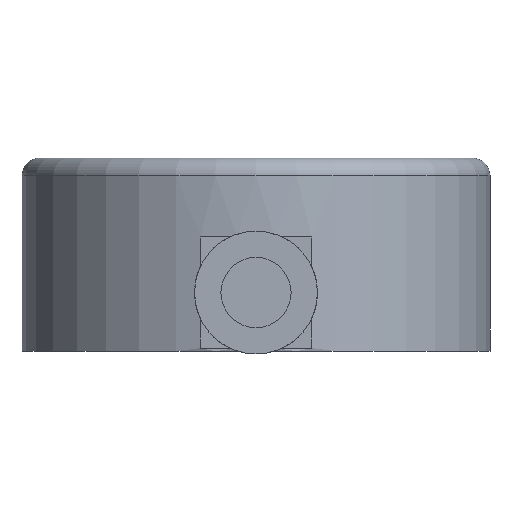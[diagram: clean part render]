
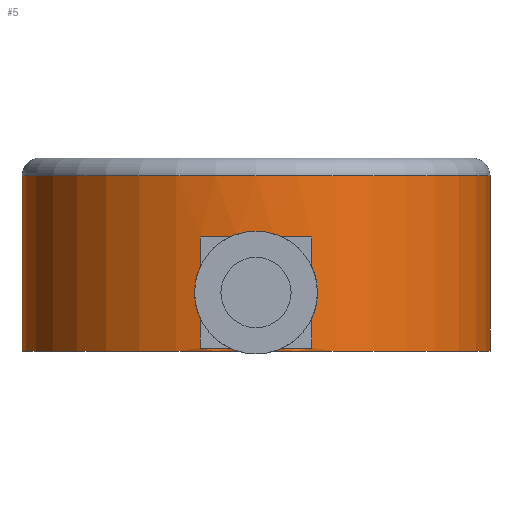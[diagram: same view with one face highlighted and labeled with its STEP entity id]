
A CAD part, front view. The second image highlights one B-rep face of the part: STEP entity #5.
In plain terms, the highlighted cylindrical face has radius 40 mm (diameter 80 mm), a partial arc.
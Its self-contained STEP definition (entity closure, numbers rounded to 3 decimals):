
#5 = ADVANCED_FACE ( 'NONE', ( #281, #491 ), #403, .T. ) ;
#13 = EDGE_CURVE ( 'NONE', #311, #256, #126, .T. ) ;
#30 = DIRECTION ( 'NONE',  ( 0., 0., 1. ) ) ;
#42 = EDGE_CURVE ( 'NONE', #636, #301, #223, .T. ) ;
#68 = EDGE_CURVE ( 'NONE', #256, #410, #162, .T. ) ;
#74 = CARTESIAN_POINT ( 'NONE',  ( -9.5, -38.856, 33. ) ) ;
#80 = DIRECTION ( 'NONE',  ( 0., 0., -1. ) ) ;
#97 = EDGE_CURVE ( 'NONE', #301, #100, #433, .T. ) ;
#100 = VERTEX_POINT ( 'NONE', #565 ) ;
#115 = CARTESIAN_POINT ( 'NONE',  ( 0., 0., 33. ) ) ;
#116 = EDGE_CURVE ( 'NONE', #429, #636, #334, .T. ) ;
#126 = LINE ( 'NONE', #74, #163 ) ;
#129 = CARTESIAN_POINT ( 'NONE',  ( 40., 0., 30. ) ) ;
#160 = ORIENTED_EDGE ( 'NONE', *, *, #42, .T. ) ;
#161 = VECTOR ( 'NONE', #243, 1000. ) ;
#162 = CIRCLE ( 'NONE', #528, 40. ) ;
#163 = VECTOR ( 'NONE', #455, 1000. ) ;
#166 = ORIENTED_EDGE ( 'NONE', *, *, #97, .T. ) ;
#185 = CARTESIAN_POINT ( 'NONE',  ( 0., 0., 19.5 ) ) ;
#186 = CARTESIAN_POINT ( 'NONE',  ( 0., 0., 0.5 ) ) ;
#188 = AXIS2_PLACEMENT_3D ( 'NONE', #510, #30, #351 ) ;
#198 = DIRECTION ( 'NONE',  ( 0., 0., -1. ) ) ;
#201 = CARTESIAN_POINT ( 'NONE',  ( 9.5, -38.856, 0.5 ) ) ;
#223 = LINE ( 'NONE', #347, #304 ) ;
#231 = CIRCLE ( 'NONE', #325, 40. ) ;
#243 = DIRECTION ( 'NONE',  ( 0., 0., -1. ) ) ;
#251 = CARTESIAN_POINT ( 'NONE',  ( -40., 0., 0. ) ) ;
#256 = VERTEX_POINT ( 'NONE', #518 ) ;
#281 = FACE_OUTER_BOUND ( 'NONE', #577, .T. ) ;
#284 = CARTESIAN_POINT ( 'NONE',  ( 9.5, -38.856, 19.5 ) ) ;
#288 = AXIS2_PLACEMENT_3D ( 'NONE', #115, #395, #614 ) ;
#295 = CARTESIAN_POINT ( 'NONE',  ( 0., 0., 30. ) ) ;
#296 = DIRECTION ( 'NONE',  ( 0., 0., -1. ) ) ;
#301 = VERTEX_POINT ( 'NONE', #251 ) ;
#304 = VECTOR ( 'NONE', #80, 1000. ) ;
#311 = VERTEX_POINT ( 'NONE', #466 ) ;
#317 = ORIENTED_EDGE ( 'NONE', *, *, #13, .T. ) ;
#320 = EDGE_CURVE ( 'NONE', #429, #100, #402, .T. ) ;
#325 = AXIS2_PLACEMENT_3D ( 'NONE', #186, #296, #352 ) ;
#332 = DIRECTION ( 'NONE',  ( 1., 0., 0. ) ) ;
#334 = CIRCLE ( 'NONE', #597, 40. ) ;
#339 = LINE ( 'NONE', #653, #161 ) ;
#347 = CARTESIAN_POINT ( 'NONE',  ( -40., 0., 33. ) ) ;
#351 = DIRECTION ( 'NONE',  ( 1., 0., 0. ) ) ;
#352 = DIRECTION ( 'NONE',  ( -1., 0., 0. ) ) ;
#356 = ORIENTED_EDGE ( 'NONE', *, *, #320, .F. ) ;
#360 = CARTESIAN_POINT ( 'NONE',  ( 40., 0., 33. ) ) ;
#378 = ORIENTED_EDGE ( 'NONE', *, *, #544, .T. ) ;
#380 = DIRECTION ( 'NONE',  ( 0., 0., -1. ) ) ;
#395 = DIRECTION ( 'NONE',  ( 0., 0., -1. ) ) ;
#398 = ORIENTED_EDGE ( 'NONE', *, *, #68, .T. ) ;
#402 = LINE ( 'NONE', #360, #650 ) ;
#403 = CYLINDRICAL_SURFACE ( 'NONE', #288, 40. ) ;
#410 = VERTEX_POINT ( 'NONE', #284 ) ;
#429 = VERTEX_POINT ( 'NONE', #129 ) ;
#433 = CIRCLE ( 'NONE', #188, 40. ) ;
#434 = ORIENTED_EDGE ( 'NONE', *, *, #116, .T. ) ;
#455 = DIRECTION ( 'NONE',  ( 0., 0., 1. ) ) ;
#466 = CARTESIAN_POINT ( 'NONE',  ( -9.5, -38.856, 0.5 ) ) ;
#491 = FACE_BOUND ( 'NONE', #529, .T. ) ;
#510 = CARTESIAN_POINT ( 'NONE',  ( 0., 0., 0. ) ) ;
#518 = CARTESIAN_POINT ( 'NONE',  ( -9.5, -38.856, 19.5 ) ) ;
#528 = AXIS2_PLACEMENT_3D ( 'NONE', #185, #595, #332 ) ;
#529 = EDGE_LOOP ( 'NONE', ( #398, #610, #378, #317 ) ) ;
#544 = EDGE_CURVE ( 'NONE', #641, #311, #231, .T. ) ;
#565 = CARTESIAN_POINT ( 'NONE',  ( 40., 0., 0. ) ) ;
#576 = CARTESIAN_POINT ( 'NONE',  ( -40., 0., 30. ) ) ;
#577 = EDGE_LOOP ( 'NONE', ( #356, #434, #160, #166 ) ) ;
#583 = EDGE_CURVE ( 'NONE', #410, #641, #339, .T. ) ;
#591 = DIRECTION ( 'NONE',  ( 1., 0., 0. ) ) ;
#595 = DIRECTION ( 'NONE',  ( 0., 0., 1. ) ) ;
#597 = AXIS2_PLACEMENT_3D ( 'NONE', #295, #380, #591 ) ;
#610 = ORIENTED_EDGE ( 'NONE', *, *, #583, .T. ) ;
#614 = DIRECTION ( 'NONE',  ( -1., 0., 0. ) ) ;
#636 = VERTEX_POINT ( 'NONE', #576 ) ;
#641 = VERTEX_POINT ( 'NONE', #201 ) ;
#650 = VECTOR ( 'NONE', #198, 1000. ) ;
#653 = CARTESIAN_POINT ( 'NONE',  ( 9.5, -38.856, 33. ) ) ;
